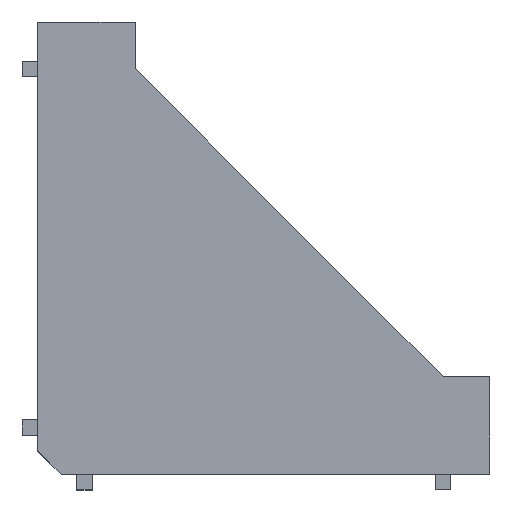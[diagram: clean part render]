
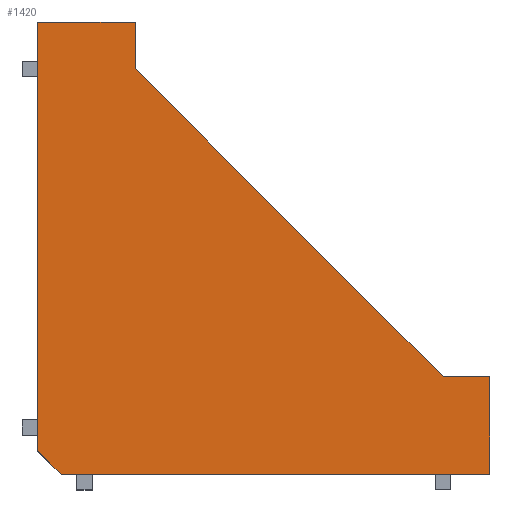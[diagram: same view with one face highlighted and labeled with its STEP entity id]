
A CAD part, top view. The second image highlights one B-rep face of the part: STEP entity #1420.
In plain terms, the highlighted planar face has unit normal (0, 0, 1).
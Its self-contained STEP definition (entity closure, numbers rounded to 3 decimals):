
#102 = VERTEX_POINT ( 'NONE', #1549 ) ;
#118 = EDGE_CURVE ( 'NONE', #516, #340, #827, .T. ) ;
#128 = EDGE_CURVE ( 'NONE', #340, #987, #1435, .T. ) ;
#156 = CARTESIAN_POINT ( 'NONE',  ( -29.888, 51.484, 29. ) ) ;
#233 = ORIENTED_EDGE ( 'NONE', *, *, #128, .T. ) ;
#250 = VERTEX_POINT ( 'NONE', #1644 ) ;
#269 = CARTESIAN_POINT ( 'NONE',  ( 15.612, 11.984, 29. ) ) ;
#340 = VERTEX_POINT ( 'NONE', #531 ) ;
#395 = VECTOR ( 'NONE', #1734, 1000. ) ;
#399 = LINE ( 'NONE', #156, #1716 ) ;
#413 = DIRECTION ( 'NONE',  ( 0., 1., 0. ) ) ;
#432 = VECTOR ( 'NONE', #413, 1000. ) ;
#446 = LINE ( 'NONE', #1801, #2295 ) ;
#451 = ORIENTED_EDGE ( 'NONE', *, *, #1127, .T. ) ;
#484 = DIRECTION ( 'NONE',  ( -1., 0., 0. ) ) ;
#489 = VERTEX_POINT ( 'NONE', #1627 ) ;
#493 = EDGE_CURVE ( 'NONE', #987, #1689, #1388, .T. ) ;
#495 = VECTOR ( 'NONE', #1177, 1000. ) ;
#516 = VERTEX_POINT ( 'NONE', #1761 ) ;
#531 = CARTESIAN_POINT ( 'NONE',  ( -39.388, -0.516, 29. ) ) ;
#569 = EDGE_CURVE ( 'NONE', #1689, #489, #986, .T. ) ;
#664 = CARTESIAN_POINT ( 'NONE',  ( -29.888, 57.484, 29. ) ) ;
#742 = CARTESIAN_POINT ( 'NONE',  ( 15.612, 11.984, 29. ) ) ;
#827 = LINE ( 'NONE', #1968, #395 ) ;
#895 = ORIENTED_EDGE ( 'NONE', *, *, #118, .T. ) ;
#913 = DIRECTION ( 'NONE',  ( 0., 1., 0. ) ) ;
#958 = DIRECTION ( 'NONE',  ( 1., 0., 0. ) ) ;
#986 = LINE ( 'NONE', #742, #2232 ) ;
#987 = VERTEX_POINT ( 'NONE', #1351 ) ;
#1009 = VERTEX_POINT ( 'NONE', #1064 ) ;
#1064 = CARTESIAN_POINT ( 'NONE',  ( -42.388, 57.484, 29. ) ) ;
#1091 = VECTOR ( 'NONE', #913, 1000. ) ;
#1127 = EDGE_CURVE ( 'NONE', #489, #250, #399, .T. ) ;
#1154 = CARTESIAN_POINT ( 'NONE',  ( 15.612, 5.484, 29. ) ) ;
#1157 = LINE ( 'NONE', #664, #432 ) ;
#1177 = DIRECTION ( 'NONE',  ( -1., 0., 0. ) ) ;
#1197 = CARTESIAN_POINT ( 'NONE',  ( 15.612, -0.516, 29. ) ) ;
#1210 = ORIENTED_EDGE ( 'NONE', *, *, #2328, .T. ) ;
#1220 = EDGE_CURVE ( 'NONE', #250, #102, #1157, .T. ) ;
#1236 = FACE_OUTER_BOUND ( 'NONE', #2215, .T. ) ;
#1283 = ORIENTED_EDGE ( 'NONE', *, *, #1220, .T. ) ;
#1351 = CARTESIAN_POINT ( 'NONE',  ( 15.612, -0.516, 29. ) ) ;
#1388 = LINE ( 'NONE', #1154, #1091 ) ;
#1419 = CARTESIAN_POINT ( 'NONE',  ( -42.388, 57.484, 29. ) ) ;
#1420 = ADVANCED_FACE ( 'NONE', ( #1236 ), #2278, .F. ) ;
#1435 = LINE ( 'NONE', #1197, #2027 ) ;
#1475 = AXIS2_PLACEMENT_3D ( 'NONE', #2230, #2004, #1772 ) ;
#1549 = CARTESIAN_POINT ( 'NONE',  ( -29.888, 57.484, 29. ) ) ;
#1559 = DIRECTION ( 'NONE',  ( 0., -1., 0. ) ) ;
#1627 = CARTESIAN_POINT ( 'NONE',  ( 9.612, 11.984, 29. ) ) ;
#1644 = CARTESIAN_POINT ( 'NONE',  ( -29.888, 51.484, 29. ) ) ;
#1660 = LINE ( 'NONE', #1419, #495 ) ;
#1689 = VERTEX_POINT ( 'NONE', #269 ) ;
#1716 = VECTOR ( 'NONE', #2262, 1000. ) ;
#1734 = DIRECTION ( 'NONE',  ( 0.707, -0.707, 0. ) ) ;
#1761 = CARTESIAN_POINT ( 'NONE',  ( -42.388, 2.484, 29. ) ) ;
#1772 = DIRECTION ( 'NONE',  ( -1., 0., 0. ) ) ;
#1801 = CARTESIAN_POINT ( 'NONE',  ( -42.388, -0.516, 29. ) ) ;
#1892 = ORIENTED_EDGE ( 'NONE', *, *, #2130, .T. ) ;
#1968 = CARTESIAN_POINT ( 'NONE',  ( -39.388, -0.516, 29. ) ) ;
#1989 = ORIENTED_EDGE ( 'NONE', *, *, #569, .T. ) ;
#2004 = DIRECTION ( 'NONE',  ( 0., 0., -1. ) ) ;
#2027 = VECTOR ( 'NONE', #958, 1000. ) ;
#2059 = ORIENTED_EDGE ( 'NONE', *, *, #493, .T. ) ;
#2130 = EDGE_CURVE ( 'NONE', #102, #1009, #1660, .T. ) ;
#2215 = EDGE_LOOP ( 'NONE', ( #1210, #895, #233, #2059, #1989, #451, #1283, #1892 ) ) ;
#2230 = CARTESIAN_POINT ( 'NONE',  ( -42.388, 57.484, 29. ) ) ;
#2232 = VECTOR ( 'NONE', #484, 1000. ) ;
#2262 = DIRECTION ( 'NONE',  ( -0.707, 0.707, 0. ) ) ;
#2278 = PLANE ( 'NONE',  #1475 ) ;
#2295 = VECTOR ( 'NONE', #1559, 1000. ) ;
#2328 = EDGE_CURVE ( 'NONE', #1009, #516, #446, .T. ) ;
